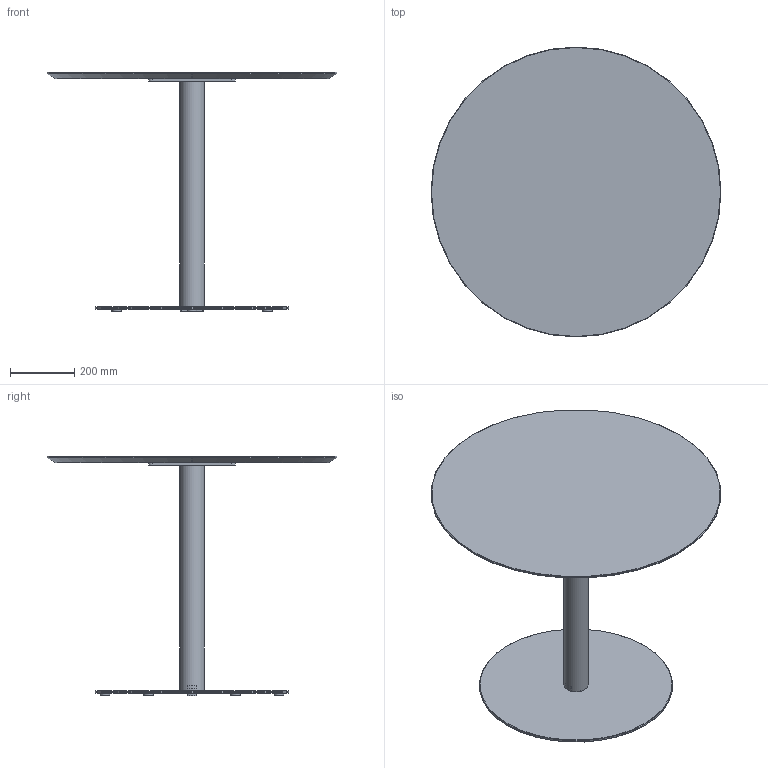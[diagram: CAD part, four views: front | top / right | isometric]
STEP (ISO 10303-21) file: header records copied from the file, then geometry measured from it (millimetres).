
FILE_DESCRIPTION( ('This file contains a STEP AP42 implementation' ,'as created by ZW3D STEP Interface translator.') ,'2;1' );
FILE_NAME( 'Henri - B_Rond - F1 - M5 - 900 x 900 x 750.stp' ,'24 912.151841', (''), ('ZWCAD Software Co.'), 'Version 1.0', 'ZW3D to STEP translator', '' );
FILE_SCHEMA(('AUTOMOTIVE_DESIGN { 1 0 10303 214 1 1 1 1 }'));
Length unit declared in the file: millimetre
Products named in the file (14): 0; PIED BISTROT PARAMETRIQUE_; COLONNE ACIER Ø76 V.02_; TUB-D076-02_; PLA-R76B-01_; CROIX ACIER 370 V.02_; CRX-X370-02_; SOCLE ACIER C Ø600 V.02_; SCL-D600-02_; PLA-R30A-01_; PLA-R30A-01; WUERTH 0276063020 Euro-screw 6.3x2 Verzinkt_; PLATEAU BISTROT PARAMETRIQUE_; insert_m6_13_
Assembly tree (24 placements, depth 3):
  0
  PIED BISTROT PARAMETRIQUE_
    COLONNE ACIER Ø76 V.02_
      TUB-D076-02_
      PLA-R76B-01_  x2
    CROIX ACIER 370 V.02_
      CRX-X370-02_
    SOCLE ACIER C Ø600 V.02_
      SCL-D600-02_
      PLA-R30A-01_
      PLA-R30A-01  x5
    WUERTH 0276063020 Euro-screw 6.3x2 Verzinkt_
    PLATEAU BISTROT PARAMETRIQUE_
      insert_m6_13_  x8
Bounding box: 900 x 900 x 744 mm (x, y, z)
Volume: 15398389.4 mm3; surface area: 2400888.7 mm2
Topology: 21 solids, 21 shells, 524 faces, 1273 edges, 802 vertices
Faces by surface type: plane 254, bspline 121, cylinder 99, cone 49, torus 1
Full cylindrical faces by diameter (mm): 4.88 x1, 6 x8, 6.3 x1, 8 x47, 12 x2, 14 x2, 30 x6, 72 x1, 76 x1, 600 x1
Entity records: 11734 total; most frequent: CARTESIAN_POINT 3302, ORIENTED_EDGE 1526, DIRECTION 1424, EDGE_CURVE 763, VERTEX_POINT 490, VECTOR 476, LINE 476, AXIS2_PLACEMENT_3D 474
